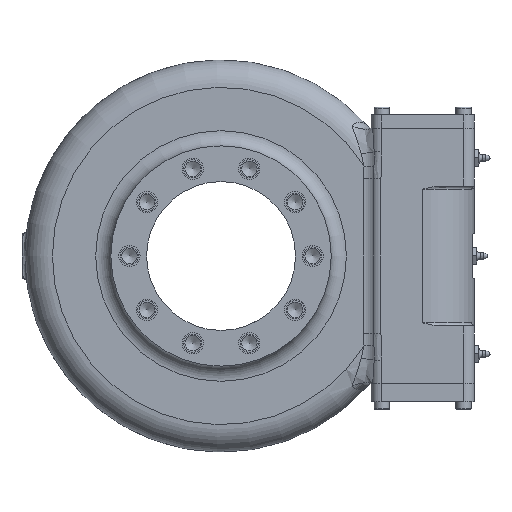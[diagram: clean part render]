
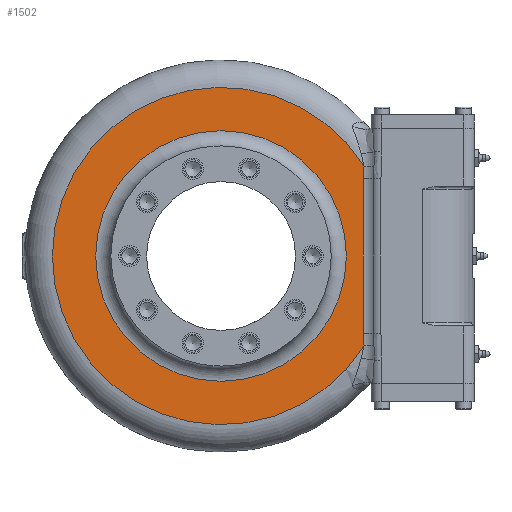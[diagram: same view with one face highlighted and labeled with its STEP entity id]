
A CAD part, left-side view. The second image highlights one B-rep face of the part: STEP entity #1502.
In plain terms, the highlighted planar face has unit normal (-1, 0, 0).
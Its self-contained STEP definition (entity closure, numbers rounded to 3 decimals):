
#122 = CARTESIAN_POINT ( 'NONE',  ( -29.5, -93.876, 59.231 ) ) ;
#291 = AXIS2_PLACEMENT_3D ( 'NONE', #22190, #4107, #4282 ) ;
#451 = EDGE_CURVE ( 'NONE', #10926, #9471, #22856, .T. ) ;
#1377 = VECTOR ( 'NONE', #4634, 1000. ) ;
#1482 = CARTESIAN_POINT ( 'NONE',  ( -29.5, -93.717, -50.787 ) ) ;
#1502 = ADVANCED_FACE ( 'NONE', ( #15546, #3335 ), #24353, .F. ) ;
#1803 = CARTESIAN_POINT ( 'NONE',  ( -29.5, -93.73, 53.602 ) ) ;
#1821 = ORIENTED_EDGE ( 'NONE', *, *, #14374, .T. ) ;
#2155 = CARTESIAN_POINT ( 'NONE',  ( -29.5, -93.717, -50.787 ) ) ;
#2999 = EDGE_LOOP ( 'NONE', ( #6283, #14636, #22758, #1821 ) ) ;
#3095 = EDGE_CURVE ( 'NONE', #5911, #10926, #14173, .T. ) ;
#3335 = FACE_OUTER_BOUND ( 'NONE', #2999, .T. ) ;
#3850 = CARTESIAN_POINT ( 'NONE',  ( -29.5, -93.717, 50.787 ) ) ;
#4107 = DIRECTION ( 'NONE',  ( -1., 0., 0. ) ) ;
#4282 = DIRECTION ( 'NONE',  ( 0., 0., -1. ) ) ;
#4418 = AXIS2_PLACEMENT_3D ( 'NONE', #10769, #6982, #18865 ) ;
#4483 = CARTESIAN_POINT ( 'NONE',  ( -29.5, 0., 0. ) ) ;
#4495 = B_SPLINE_CURVE_WITH_KNOTS ( 'NONE', 3,
 ( #9435, #11356, #17631, #13593, #5411, #1482 ),
 .UNSPECIFIED., .F., .F.,
 ( 4, 2, 4 ),
 ( 0., 0.004, 0.008 ),
 .UNSPECIFIED. ) ;
#4590 = CARTESIAN_POINT ( 'NONE',  ( -29.5, -93.876, -59.231 ) ) ;
#4634 = DIRECTION ( 'NONE',  ( 0., 0., 1. ) ) ;
#5356 = VERTEX_POINT ( 'NONE', #4590 ) ;
#5411 = CARTESIAN_POINT ( 'NONE',  ( -29.5, -93.717, -52.195 ) ) ;
#5911 = VERTEX_POINT ( 'NONE', #2155 ) ;
#6283 = ORIENTED_EDGE ( 'NONE', *, *, #3095, .T. ) ;
#6982 = DIRECTION ( 'NONE',  ( 1., 0., 0. ) ) ;
#7200 = EDGE_CURVE ( 'NONE', #7282, #7282, #17441, .T. ) ;
#7282 = VERTEX_POINT ( 'NONE', #11773 ) ;
#8514 = DIRECTION ( 'NONE',  ( 0., 0., -1. ) ) ;
#9435 = CARTESIAN_POINT ( 'NONE',  ( -29.5, -93.876, -59.231 ) ) ;
#9471 = VERTEX_POINT ( 'NONE', #122 ) ;
#10769 = CARTESIAN_POINT ( 'NONE',  ( -29.5, 0., 0. ) ) ;
#10926 = VERTEX_POINT ( 'NONE', #3850 ) ;
#11356 = CARTESIAN_POINT ( 'NONE',  ( -29.5, -93.825, -57.824 ) ) ;
#11751 = CARTESIAN_POINT ( 'NONE',  ( -29.5, -93.784, 56.417 ) ) ;
#11773 = CARTESIAN_POINT ( 'NONE',  ( -29.5, 0., -82.5 ) ) ;
#13593 = CARTESIAN_POINT ( 'NONE',  ( -29.5, -93.73, -53.602 ) ) ;
#13756 = CARTESIAN_POINT ( 'NONE',  ( -29.5, -93.825, 57.824 ) ) ;
#14173 = LINE ( 'NONE', #24504, #1377 ) ;
#14374 = EDGE_CURVE ( 'NONE', #5356, #5911, #4495, .T. ) ;
#14636 = ORIENTED_EDGE ( 'NONE', *, *, #451, .T. ) ;
#15234 = AXIS2_PLACEMENT_3D ( 'NONE', #4483, #20447, #8514 ) ;
#15546 = FACE_BOUND ( 'NONE', #23424, .T. ) ;
#16107 = ORIENTED_EDGE ( 'NONE', *, *, #7200, .T. ) ;
#17441 = CIRCLE ( 'NONE', #4418, 82.5 ) ;
#17631 = CARTESIAN_POINT ( 'NONE',  ( -29.5, -93.784, -56.417 ) ) ;
#17957 = CARTESIAN_POINT ( 'NONE',  ( -29.5, -93.717, 50.787 ) ) ;
#17998 = EDGE_CURVE ( 'NONE', #9471, #5356, #22369, .T. ) ;
#18865 = DIRECTION ( 'NONE',  ( 0., 0., -1. ) ) ;
#19768 = CARTESIAN_POINT ( 'NONE',  ( -29.5, -93.717, 52.195 ) ) ;
#20447 = DIRECTION ( 'NONE',  ( 1., 0., 0. ) ) ;
#21869 = CARTESIAN_POINT ( 'NONE',  ( -29.5, -93.876, 59.231 ) ) ;
#22190 = CARTESIAN_POINT ( 'NONE',  ( -29.5, 0., 0. ) ) ;
#22369 = CIRCLE ( 'NONE', #291, 111. ) ;
#22758 = ORIENTED_EDGE ( 'NONE', *, *, #17998, .T. ) ;
#22856 = B_SPLINE_CURVE_WITH_KNOTS ( 'NONE', 3,
 ( #17957, #19768, #1803, #11751, #13756, #21869 ),
 .UNSPECIFIED., .F., .F.,
 ( 4, 2, 4 ),
 ( 0., 0.004, 0.008 ),
 .UNSPECIFIED. ) ;
#23424 = EDGE_LOOP ( 'NONE', ( #16107 ) ) ;
#24353 = PLANE ( 'NONE',  #15234 ) ;
#24504 = CARTESIAN_POINT ( 'NONE',  ( -29.5, -93.717, 0. ) ) ;
